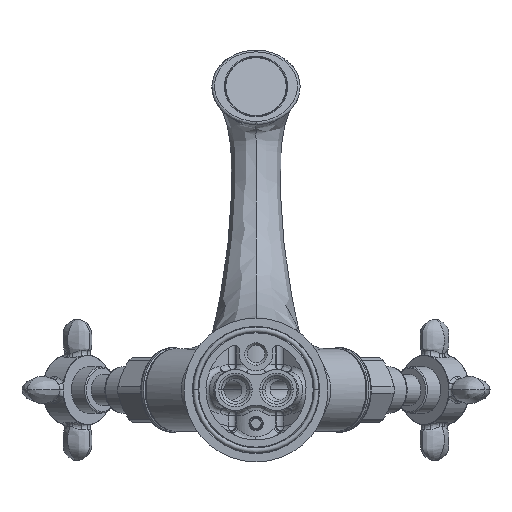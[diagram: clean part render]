
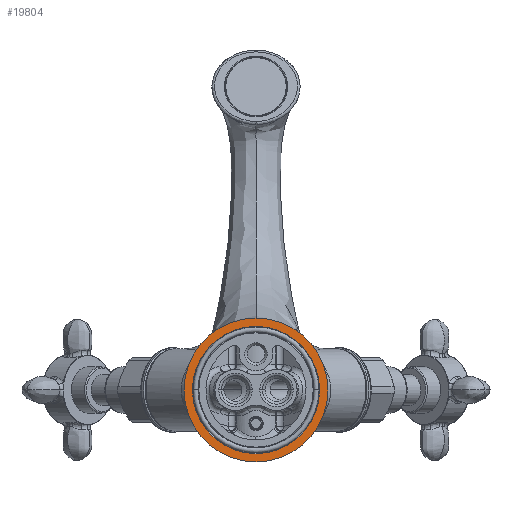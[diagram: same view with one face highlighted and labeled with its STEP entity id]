
A CAD part, front view. The second image highlights one B-rep face of the part: STEP entity #19804.
In plain terms, the highlighted planar face has unit normal (0, -1, 0).
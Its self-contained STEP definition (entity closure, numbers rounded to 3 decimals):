
#19804 = ADVANCED_FACE('',(#19805,#19825),#19845,.T.);
#19805 = FACE_BOUND('',#19806,.F.);
#19806 = EDGE_LOOP('',(#19807,#19818));
#19807 = ORIENTED_EDGE('',*,*,#19808,.T.);
#19808 = EDGE_CURVE('',#19809,#19811,#19813,.T.);
#19809 = VERTEX_POINT('',#19810);
#19810 = CARTESIAN_POINT('',(-28.,0.,0.));
#19811 = VERTEX_POINT('',#19812);
#19812 = CARTESIAN_POINT('',(28.,0.,0.));
#19813 = CIRCLE('',#19814,28.);
#19814 = AXIS2_PLACEMENT_3D('',#19815,#19816,#19817);
#19815 = CARTESIAN_POINT('',(0.,0.,0.));
#19816 = DIRECTION('',(0.,1.,0.));
#19817 = DIRECTION('',(-1.,0.,0.));
#19818 = ORIENTED_EDGE('',*,*,#19819,.T.);
#19819 = EDGE_CURVE('',#19811,#19809,#19820,.T.);
#19820 = CIRCLE('',#19821,28.);
#19821 = AXIS2_PLACEMENT_3D('',#19822,#19823,#19824);
#19822 = CARTESIAN_POINT('',(0.,0.,0.));
#19823 = DIRECTION('',(-0.,1.,0.));
#19824 = DIRECTION('',(1.,0.,0.));
#19825 = FACE_BOUND('',#19826,.F.);
#19826 = EDGE_LOOP('',(#19827,#19838));
#19827 = ORIENTED_EDGE('',*,*,#19828,.F.);
#19828 = EDGE_CURVE('',#19829,#19831,#19833,.T.);
#19829 = VERTEX_POINT('',#19830);
#19830 = CARTESIAN_POINT('',(0.,0.,24.75));
#19831 = VERTEX_POINT('',#19832);
#19832 = CARTESIAN_POINT('',(0.,0.,-24.75));
#19833 = CIRCLE('',#19834,24.75);
#19834 = AXIS2_PLACEMENT_3D('',#19835,#19836,#19837);
#19835 = CARTESIAN_POINT('',(0.,0.,0.));
#19836 = DIRECTION('',(0.,1.,0.));
#19837 = DIRECTION('',(0.,-0.,1.));
#19838 = ORIENTED_EDGE('',*,*,#19839,.F.);
#19839 = EDGE_CURVE('',#19831,#19829,#19840,.T.);
#19840 = CIRCLE('',#19841,24.75);
#19841 = AXIS2_PLACEMENT_3D('',#19842,#19843,#19844);
#19842 = CARTESIAN_POINT('',(0.,0.,0.));
#19843 = DIRECTION('',(0.,1.,0.));
#19844 = DIRECTION('',(0.,0.,-1.));
#19845 = PLANE('',#19846);
#19846 = AXIS2_PLACEMENT_3D('',#19847,#19848,#19849);
#19847 = CARTESIAN_POINT('',(0.,0.,0.));
#19848 = DIRECTION('',(0.,-1.,0.));
#19849 = DIRECTION('',(1.,0.,0.));
